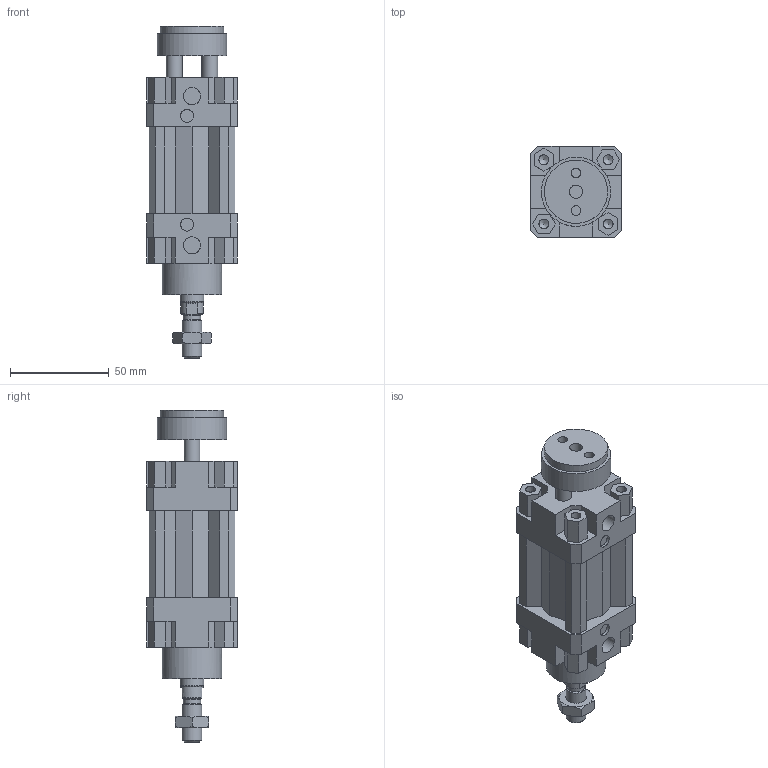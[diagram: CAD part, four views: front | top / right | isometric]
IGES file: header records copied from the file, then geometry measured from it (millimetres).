
Global section: file name: 132#_032_0000_02; native system: Autodesk Inventor 2014; preprocessor: unknown; author: A. Manieri; date: 20161006.154600; units: millimetre
Bounding box: 46 x 46 x 168 mm (x, y, z)
Volume: 181990.7 mm3; surface area: 54011.3 mm2
Topology: 3 solids, 3 shells, 227 faces, 605 edges, 405 vertices
Faces by surface type: bspline 227
